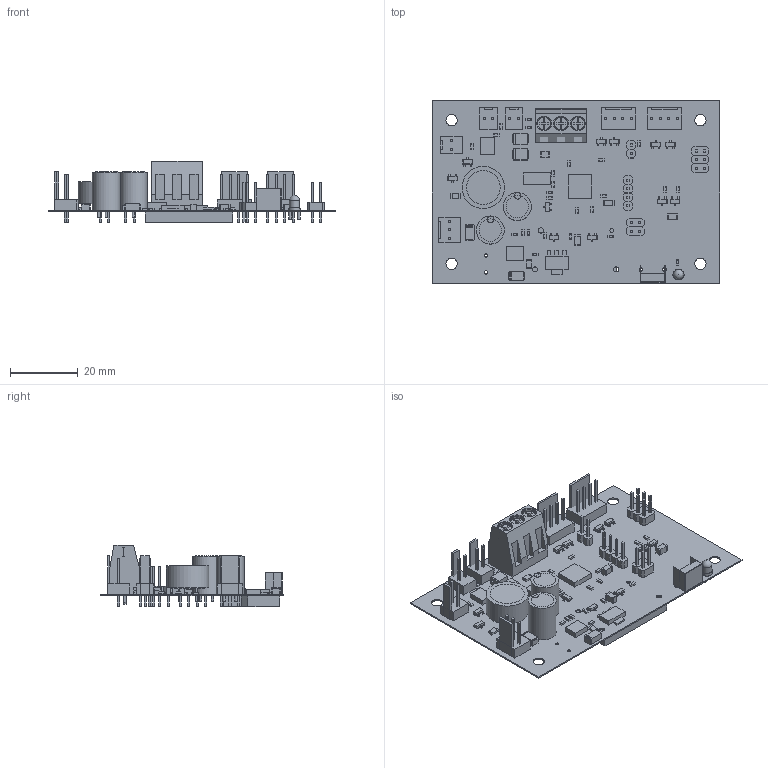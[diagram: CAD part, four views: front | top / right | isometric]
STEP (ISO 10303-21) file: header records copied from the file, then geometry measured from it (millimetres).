
FILE_DESCRIPTION(('Open CASCADE Model'),'2;1');
FILE_NAME('Open CASCADE Shape Model','2015-11-13T19:49:55',('Author'),( 'Open CASCADE'),'Open CASCADE STEP processor 6.2','Open CASCADE 6.2' ,'Unknown');
FILE_SCHEMA(('AUTOMOTIVE_DESIGN { 1 0 10303 214 1 1 1 1 }'));
Length unit declared in the file: millimetre
Products named in the file (190): PCB; Board; R16; 503578880; Extruded; 503578752; R15; Q2; mf03a; BODY_MF03A; LEAD_MF03A; Q1; D12; D10; D13; D11; COM1; 503582592; 503587968; 503588224; CN1; 503579008; 503587840; SD; 187122560; X1; 503584256; U1; 503583616; U3; 503593088; U2; 375544832; 187122688; 187122816; U4; 375523072; SWD; RTCCAL; 503579136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
Assembly tree (342 placements, depth 4):
  PCB
    Board
    R16
      503578880
        Extruded
      503578752  x2
        Extruded
    R15
      503578880
        Extruded
      503578752  x2
        Extruded
    Q2
      mf03a
        BODY_MF03A
        LEAD_MF03A  x3
    Q1
      mf03a
        BODY_MF03A
        LEAD_MF03A  x3
    D12
      mf03a
        BODY_MF03A
        LEAD_MF03A  x3
    D10
      mf03a
        BODY_MF03A
        LEAD_MF03A  x3
    D13
      mf03a
        BODY_MF03A
        LEAD_MF03A  x3
    D11
      mf03a
        BODY_MF03A
        LEAD_MF03A  x3
    COM1
      503582592  x4
        Extruded
      503587968
        Extruded
      503588224
        Extruded
    CN1
      503579008  x4
        Extruded
      503587840  x2
        Extruded
    SD
      187122560
        Extruded
    X1
      503584256
        Extruded
    U1
      503583616
        Extruded
    U3
      503593088
        Extruded
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Bounding box: 85.09 x 53.98 x 18.2 mm (x, y, z)
Volume: 9661 mm3; surface area: 19070.7 mm2
Topology: 244 solids, 244 shells, 2109 faces, 4706 edges, 3110 vertices
Faces by surface type: plane 1792, cylinder 280, torus 30, cone 6, sphere 1
Full cylindrical faces by diameter (mm): 0.711 x4, 0.8 x2, 0.813 x6, 1.016 x41, 1.1 x1, 1.5 x2, 1.6 x4, 2 x2, 3 x1, 3.2 x1, 3.353 x4, 6.6 x2, 8.3 x2, 10 x1, 12.5 x1
Entity records: 43394 total; most frequent: CARTESIAN_POINT 9701, DIRECTION 5943, LINE 3274, VECTOR 3274, ORIENTED_EDGE 2804, PCURVE 2804, DEFINITIONAL_REPRESENTATION 2804, EDGE_CURVE 1402
